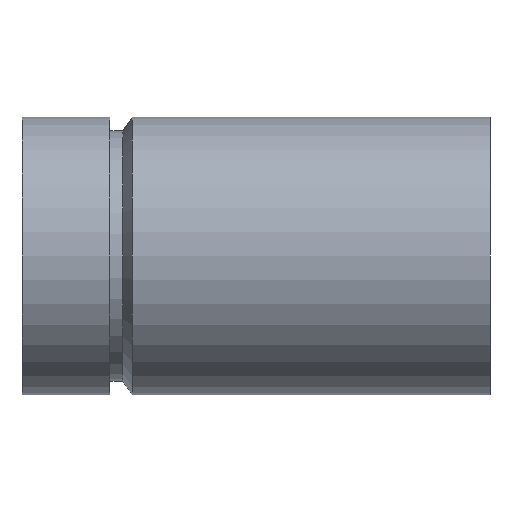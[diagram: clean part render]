
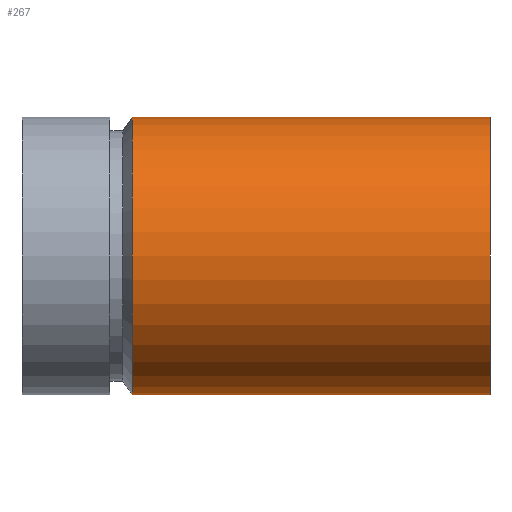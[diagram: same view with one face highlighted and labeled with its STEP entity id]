
A CAD part, front view. The second image highlights one B-rep face of the part: STEP entity #267.
In plain terms, the highlighted cylindrical face has radius 30.163 mm (diameter 60.325 mm), a full revolution.
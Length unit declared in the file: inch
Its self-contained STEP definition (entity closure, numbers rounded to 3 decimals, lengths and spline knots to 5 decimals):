
#59=FACE_OUTER_BOUND('',#72,.T.);
#72=EDGE_LOOP('',(#201,#202,#203,#204,#205,#206));
#86=LINE('',#485,#94);
#94=VECTOR('',#383,1.1875);
#107=CIRCLE('',#307,1.1875);
#108=CIRCLE('',#308,1.1875);
#109=CIRCLE('',#310,1.1875);
#110=CIRCLE('',#311,1.1875);
#131=VERTEX_POINT('',#475);
#132=VERTEX_POINT('',#476);
#133=VERTEX_POINT('',#481);
#134=VERTEX_POINT('',#482);
#157=EDGE_CURVE('',#131,#132,#107,.T.);
#158=EDGE_CURVE('',#132,#131,#108,.T.);
#160=EDGE_CURVE('',#133,#134,#109,.T.);
#161=EDGE_CURVE('',#134,#133,#110,.T.);
#162=EDGE_CURVE('',#134,#132,#86,.T.);
#201=ORIENTED_EDGE('',*,*,#160,.F.);
#202=ORIENTED_EDGE('',*,*,#161,.F.);
#203=ORIENTED_EDGE('',*,*,#162,.T.);
#204=ORIENTED_EDGE('',*,*,#158,.T.);
#205=ORIENTED_EDGE('',*,*,#157,.T.);
#206=ORIENTED_EDGE('',*,*,#162,.F.);
#245=CYLINDRICAL_SURFACE('',#309,1.1875);
#267=ADVANCED_FACE('',(#59),#245,.T.);
#307=AXIS2_PLACEMENT_3D('',#477,#372,#373);
#308=AXIS2_PLACEMENT_3D('',#478,#374,#375);
#309=AXIS2_PLACEMENT_3D('',#480,#377,#378);
#310=AXIS2_PLACEMENT_3D('',#483,#379,#380);
#311=AXIS2_PLACEMENT_3D('',#484,#381,#382);
#372=DIRECTION('center_axis',(1.,0.,0.));
#373=DIRECTION('ref_axis',(0.,1.,0.));
#374=DIRECTION('center_axis',(1.,0.,0.));
#375=DIRECTION('ref_axis',(0.,1.,0.));
#377=DIRECTION('center_axis',(1.,0.,0.));
#378=DIRECTION('ref_axis',(0.,1.,0.));
#379=DIRECTION('center_axis',(1.,0.,0.));
#380=DIRECTION('ref_axis',(0.,1.,0.));
#381=DIRECTION('center_axis',(1.,0.,0.));
#382=DIRECTION('ref_axis',(0.,1.,0.));
#383=DIRECTION('',(-1.,0.,0.));
#475=CARTESIAN_POINT('',(0.94262,1.1875,0.));
#476=CARTESIAN_POINT('',(0.94262,-1.1875,0.));
#477=CARTESIAN_POINT('Origin',(0.94262,0.,0.));
#478=CARTESIAN_POINT('Origin',(0.94262,0.,0.));
#480=CARTESIAN_POINT('Origin',(2.47131,0.,0.));
#481=CARTESIAN_POINT('',(4.,1.1875,0.));
#482=CARTESIAN_POINT('',(4.,-1.1875,0.));
#483=CARTESIAN_POINT('Origin',(4.,0.,0.));
#484=CARTESIAN_POINT('Origin',(4.,0.,0.));
#485=CARTESIAN_POINT('',(2.47131,-1.1875,0.));
